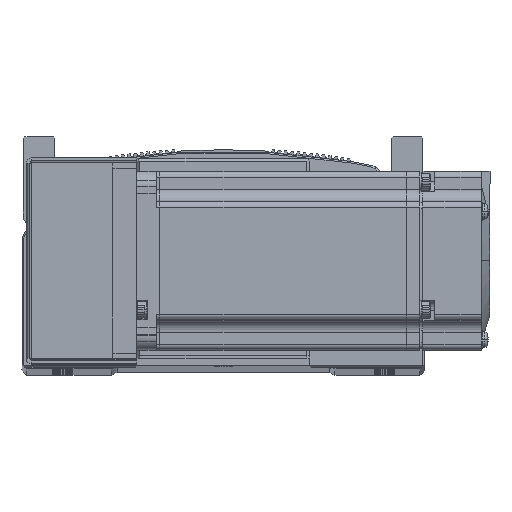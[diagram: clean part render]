
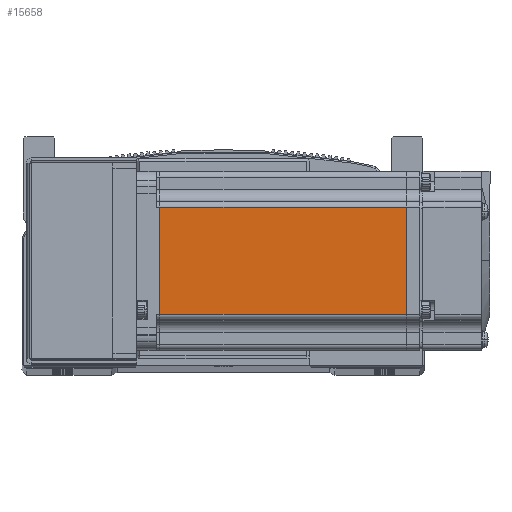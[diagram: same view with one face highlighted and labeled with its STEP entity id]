
A CAD part, top view. The second image highlights one B-rep face of the part: STEP entity #15658.
In plain terms, the highlighted planar face has unit normal (0, 0, 1) as drawn and (0, 0, -1) by its records, which use the part's own axes.
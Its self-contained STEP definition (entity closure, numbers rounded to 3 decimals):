
#2490 = VERTEX_POINT ( 'NONE', #59284 ) ;
#2507 = VERTEX_POINT ( 'NONE', #59363 ) ;
#2515 = VERTEX_POINT ( 'NONE', #59371 ) ;
#2575 = VERTEX_POINT ( 'NONE', #59673 ) ;
#9092 = VECTOR ( 'NONE', #17031, 1000. ) ;
#9102 = LINE ( 'NONE', #17048, #9092 ) ;
#9107 = LINE ( 'NONE', #17194, #9164 ) ;
#9164 = VECTOR ( 'NONE', #17296, 1000. ) ;
#9176 = VECTOR ( 'NONE', #17407, 1000. ) ;
#9190 = VECTOR ( 'NONE', #17358, 1000. ) ;
#9193 = LINE ( 'NONE', #17336, #9190 ) ;
#9213 = LINE ( 'NONE', #17443, #9176 ) ;
#15658 = ADVANCED_FACE ( 'NONE', ( #26167 ), #46179, .T. ) ;
#17031 = DIRECTION ( 'NONE',  ( -1., 0., 0. ) ) ;
#17048 = CARTESIAN_POINT ( 'NONE',  ( -6.5, -18., -30. ) ) ;
#17194 = CARTESIAN_POINT ( 'NONE',  ( -6.5, 18., -30. ) ) ;
#17296 = DIRECTION ( 'NONE',  ( 1., 0., 0. ) ) ;
#17336 = CARTESIAN_POINT ( 'NONE',  ( -7.75, 25., -30. ) ) ;
#17358 = DIRECTION ( 'NONE',  ( 0., -1., 0. ) ) ;
#17407 = DIRECTION ( 'NONE',  ( 0., 1., 0. ) ) ;
#17443 = CARTESIAN_POINT ( 'NONE',  ( -90.45, 25., -30. ) ) ;
#26167 = FACE_OUTER_BOUND ( 'NONE', #76903, .T. ) ;
#36192 = AXIS2_PLACEMENT_3D ( 'NONE', #46182, #46195, #46184 ) ;
#46179 = PLANE ( 'NONE',  #36192 ) ;
#46182 = CARTESIAN_POINT ( 'NONE',  ( -6.5, 25., -30. ) ) ;
#46184 = DIRECTION ( 'NONE',  ( -1., 0., 0. ) ) ;
#46195 = DIRECTION ( 'NONE',  ( 0., 0., -1. ) ) ;
#59284 = CARTESIAN_POINT ( 'NONE',  ( -7.75, -18., -30. ) ) ;
#59363 = CARTESIAN_POINT ( 'NONE',  ( -7.75, 18., -30. ) ) ;
#59371 = CARTESIAN_POINT ( 'NONE',  ( -90.45, 18., -30. ) ) ;
#59673 = CARTESIAN_POINT ( 'NONE',  ( -90.45, -18., -30. ) ) ;
#76903 = EDGE_LOOP ( 'NONE', ( #83568, #83510, #83600, #83636 ) ) ;
#77376 = EDGE_CURVE ( 'NONE', #2490, #2575, #9102, .T. ) ;
#77462 = EDGE_CURVE ( 'NONE', #2515, #2507, #9107, .T. ) ;
#77520 = EDGE_CURVE ( 'NONE', #2507, #2490, #9193, .T. ) ;
#77535 = EDGE_CURVE ( 'NONE', #2575, #2515, #9213, .T. ) ;
#83510 = ORIENTED_EDGE ( 'NONE', *, *, #77376, .T. ) ;
#83568 = ORIENTED_EDGE ( 'NONE', *, *, #77520, .T. ) ;
#83600 = ORIENTED_EDGE ( 'NONE', *, *, #77535, .T. ) ;
#83636 = ORIENTED_EDGE ( 'NONE', *, *, #77462, .T. ) ;
